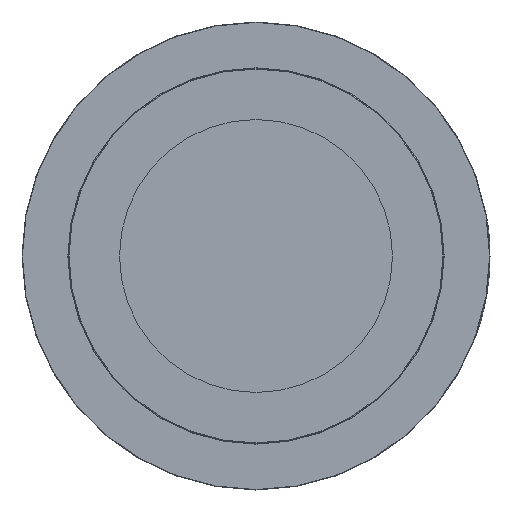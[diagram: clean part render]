
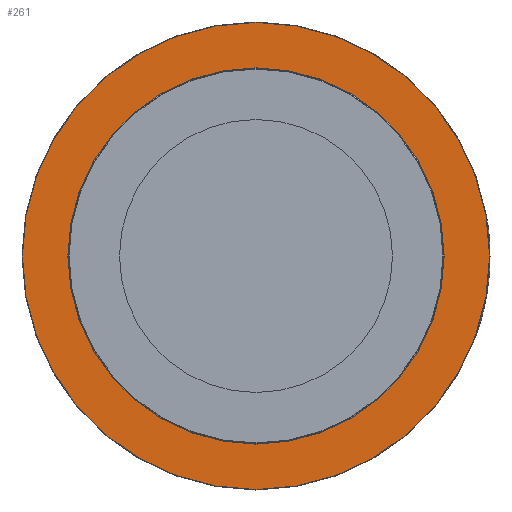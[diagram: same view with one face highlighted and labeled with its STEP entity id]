
A CAD part, left-side view. The second image highlights one B-rep face of the part: STEP entity #261.
In plain terms, the highlighted planar face has unit normal (-1, 0, 0).
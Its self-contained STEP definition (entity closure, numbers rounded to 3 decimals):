
#261 = ADVANCED_FACE( '', ( #746, #747 ), #748, .F. );
#746 = FACE_BOUND( '', #1501, .T. );
#747 = FACE_OUTER_BOUND( '', #1502, .T. );
#748 = PLANE( '', #1503 );
#1501 = EDGE_LOOP( '', ( #5091 ) );
#1502 = EDGE_LOOP( '', ( #5092 ) );
#1503 = AXIS2_PLACEMENT_3D( '', #5093, #5094, #5095 );
#5091 = ORIENTED_EDGE( '', *, *, #6988, .F. );
#5092 = ORIENTED_EDGE( '', *, *, #6989, .T. );
#5093 = CARTESIAN_POINT( '', ( 154.654, 0., 266.192 ) );
#5094 = DIRECTION( '', ( 1., 0., 0. ) );
#5095 = DIRECTION( '', ( 0., 0., -1. ) );
#6988 = EDGE_CURVE( '', #7799, #7799, #7800, .T. );
#6989 = EDGE_CURVE( '', #7801, #7801, #7802, .T. );
#7799 = VERTEX_POINT( '', #9010 );
#7800 = CIRCLE( '', #9011, 214.395 );
#7801 = VERTEX_POINT( '', #9012 );
#7802 = CIRCLE( '', #9013, 266.192 );
#9010 = CARTESIAN_POINT( '', ( 154.654, 0., 214.395 ) );
#9011 = AXIS2_PLACEMENT_3D( '', #12746, #12747, #12748 );
#9012 = CARTESIAN_POINT( '', ( 154.654, 0., 266.192 ) );
#9013 = AXIS2_PLACEMENT_3D( '', #12749, #12750, #12751 );
#12746 = CARTESIAN_POINT( '', ( 154.654, 0., 0. ) );
#12747 = DIRECTION( '', ( -1., 0., 0. ) );
#12748 = DIRECTION( '', ( 0., 0., 1. ) );
#12749 = CARTESIAN_POINT( '', ( 154.654, 0., 0. ) );
#12750 = DIRECTION( '', ( -1., 0., 0. ) );
#12751 = DIRECTION( '', ( 0., 0., 1. ) );
